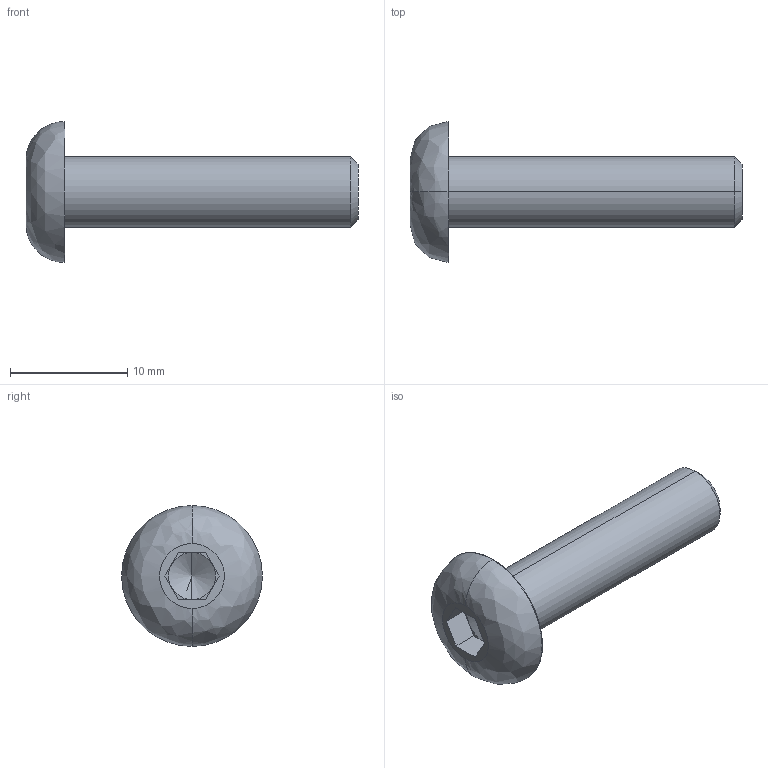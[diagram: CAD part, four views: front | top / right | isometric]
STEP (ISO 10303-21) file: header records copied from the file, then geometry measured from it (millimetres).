
FILE_DESCRIPTION (( 'STEP AP214' ), '1' );
FILE_NAME ('ISO7380_6x25.STEP', '2016-05-18T14:44:59', ( '' ), ( '' ), 'SwSTEP 2.0', 'SolidWorks 2014', '' );
FILE_SCHEMA (( 'AUTOMOTIVE_DESIGN' ));
Length unit declared in the file: millimetre
Products named in the file (1): ISO7380_6x25
Bounding box: 28.3 x 12 x 12 mm (x, y, z)
Volume: 967.5 mm3; surface area: 789.2 mm2
Topology: 1 solids, 1 shells, 28 faces, 62 edges, 36 vertices
Faces by surface type: plane 15, cylinder 7, cone 4, bspline 2
Entity records: 808 total; most frequent: CARTESIAN_POINT 164, DIRECTION 135, ORIENTED_EDGE 120, EDGE_CURVE 60, AXIS2_PLACEMENT_3D 51, VERTEX_POINT 36, LINE 33, VECTOR 33
